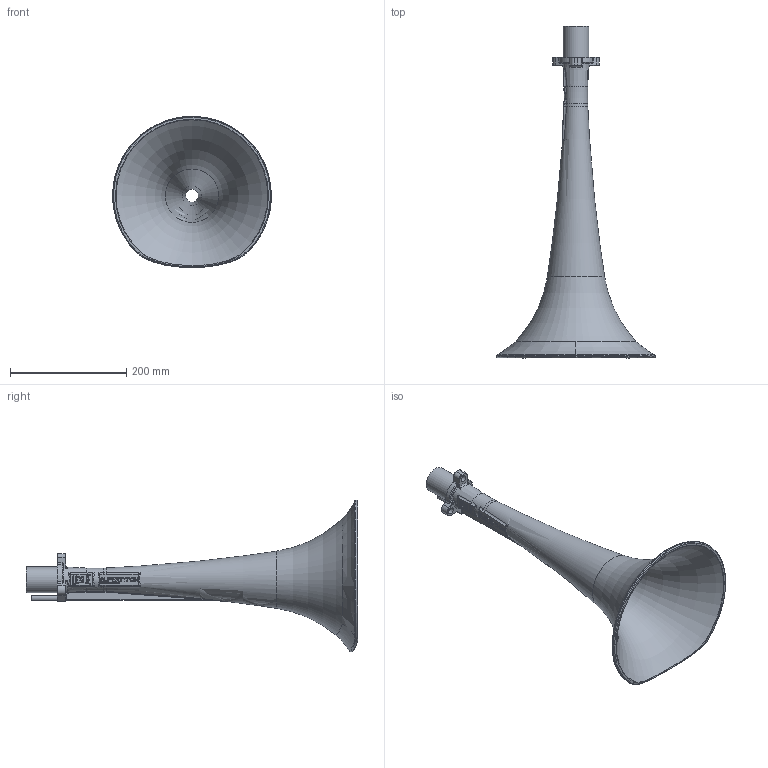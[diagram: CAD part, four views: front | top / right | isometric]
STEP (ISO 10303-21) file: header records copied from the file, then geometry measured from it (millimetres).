
FILE_DESCRIPTION(/* description */ (''),/* implementation_level */ '2;1');
FILE_NAME(/* name */ 'E:/hidden/Engineering Projects/Leslie Controls SuperTyfon/CAD/Components/27575 #25 Horn, Complete.step',/* time_stamp */ '2022-08-18T19:37:36+10:00',/* author */ (''),/* organization */ (''),/* preprocessor_version */ 'ST-DEVELOPER v19',/* originating_system */ 'Autodesk Translation Framework v11.7.0.108',/* authorisation */ '');
FILE_SCHEMA (('AUTOMOTIVE_DESIGN { 1 0 10303 214 3 1 1 }'));
Length unit declared in the file: inch
Products named in the file (3): #27129; #27130; #27131
Assembly tree (2 placements, depth 2):
  #27129
    #27130
    #27131
Bounding box: 272.87 x 570.71 x 260.18 mm (x, y, z)
Volume: 645650.7 mm3; surface area: 333601.1 mm2
Topology: 2 solids, 2 shells, 558 faces, 1524 edges, 972 vertices
Faces by surface type: bspline 224, plane 198, cone 60, cylinder 44, torus 28, sphere 4
Full cylindrical faces by diameter (mm): 3.175 x1, 6.35 x1, 7.938 x1, 7.987 x1, 11.112 x3, 44.45 x1
Entity records: 27143 total; most frequent: CARTESIAN_POINT 14675, ORIENTED_EDGE 3002, DIRECTION 1855, EDGE_CURVE 1501, VERTEX_POINT 972, AXIS2_PLACEMENT_3D 625, B_SPLINE_CURVE_WITH_KNOTS 610, LINE 605
